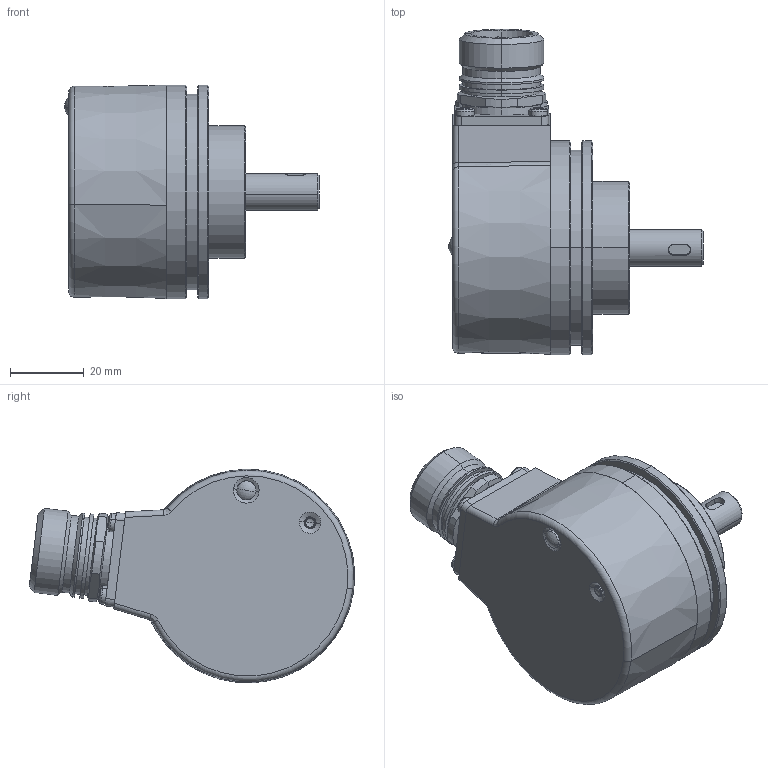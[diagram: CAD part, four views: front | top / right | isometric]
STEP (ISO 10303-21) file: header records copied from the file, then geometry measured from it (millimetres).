
FILE_DESCRIPTION (( 'STEP AP214' ), '1' );
FILE_NAME ('5853SIL.1AX4.XXXX.STEP', '2010-07-20T08:02:08', ( 'admin' ), ( 'Fritz Kübler GmbH' ), 'SwSTEP 2.0', 'SolidWorks 2009', '' );
FILE_SCHEMA (( 'AUTOMOTIVE_DESIGN' ));
Length unit declared in the file: millimetre
Products named in the file (1): 5853SIL.1AX4.XXXX
Bounding box: 69.12 x 88.28 x 58 mm (x, y, z)
Surface area: 22317.8 mm2 (no closed solid volume)
Topology: 0 solids, 32 shells, 318 faces, 844 edges, 539 vertices
Faces by surface type: cylinder 131, plane 83, cone 44, sphere 36, torus 20, bspline 4
Entity records: 13833 total; most frequent: CARTESIAN_POINT 2232, DIRECTION 1923, ORIENTED_EDGE 1464, EDGE_CURVE 820, AXIS2_PLACEMENT_3D 812, VERTEX_POINT 539, CIRCLE 497, EDGE_LOOP 368
